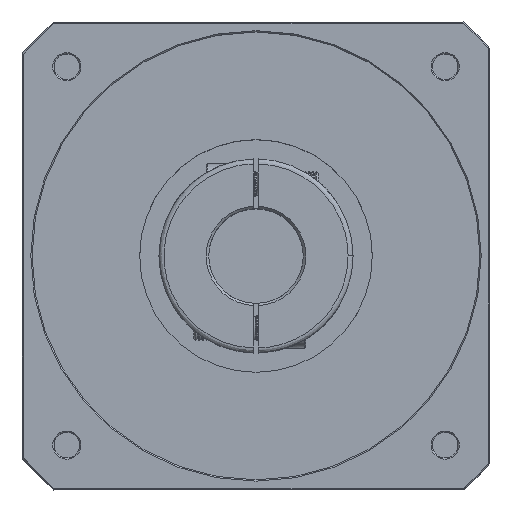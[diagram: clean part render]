
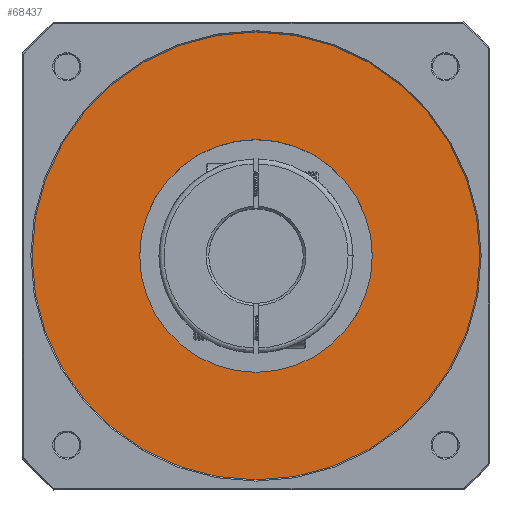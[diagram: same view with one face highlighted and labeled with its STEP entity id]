
A CAD part, top view. The second image highlights one B-rep face of the part: STEP entity #68437.
In plain terms, the highlighted planar face has unit normal (0, 0, -1).
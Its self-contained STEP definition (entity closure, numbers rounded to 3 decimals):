
#382 = EDGE_CURVE ( 'NONE', #43017, #10463, #8126, .T. ) ;
#854 = FACE_OUTER_BOUND ( 'NONE', #28990, .T. ) ;
#1432 = EDGE_CURVE ( 'NONE', #10463, #43017, #3446, .T. ) ;
#1834 = CIRCLE ( 'NONE', #54228, 46.75 ) ;
#3446 = CIRCLE ( 'NONE', #13664, 90. ) ;
#4880 = CARTESIAN_POINT ( 'NONE',  ( 90., 0., 221.5 ) ) ;
#8126 = CIRCLE ( 'NONE', #87172, 90. ) ;
#10463 = VERTEX_POINT ( 'NONE', #77179 ) ;
#13664 = AXIS2_PLACEMENT_3D ( 'NONE', #23407, #71754, #30386 ) ;
#17760 = CARTESIAN_POINT ( 'NONE',  ( -91.08, -91.08, 221.5 ) ) ;
#21414 = CARTESIAN_POINT ( 'NONE',  ( 0., 0., 221.5 ) ) ;
#21487 = DIRECTION ( 'NONE',  ( 0., 0., -1. ) ) ;
#23407 = CARTESIAN_POINT ( 'NONE',  ( 0., 0., 221.5 ) ) ;
#24143 = PLANE ( 'NONE',  #51514 ) ;
#24734 = DIRECTION ( 'NONE',  ( 1., 0., 0. ) ) ;
#28384 = DIRECTION ( 'NONE',  ( -1., 0., 0. ) ) ;
#28990 = EDGE_LOOP ( 'NONE', ( #72137, #67716 ) ) ;
#30386 = DIRECTION ( 'NONE',  ( 1., 0., 0. ) ) ;
#32167 = ORIENTED_EDGE ( 'NONE', *, *, #35422, .T. ) ;
#32797 = CARTESIAN_POINT ( 'NONE',  ( 0., 0., 221.5 ) ) ;
#35422 = EDGE_CURVE ( 'NONE', #47902, #79298, #65613, .T. ) ;
#37949 = FACE_BOUND ( 'NONE', #48656, .T. ) ;
#39784 = DIRECTION ( 'NONE',  ( -1., 0., 0. ) ) ;
#43017 = VERTEX_POINT ( 'NONE', #4880 ) ;
#47902 = VERTEX_POINT ( 'NONE', #51281 ) ;
#48656 = EDGE_LOOP ( 'NONE', ( #89575, #32167 ) ) ;
#51102 = EDGE_CURVE ( 'NONE', #79298, #47902, #1834, .T. ) ;
#51281 = CARTESIAN_POINT ( 'NONE',  ( 46.75, 0., 221.5 ) ) ;
#51514 = AXIS2_PLACEMENT_3D ( 'NONE', #17760, #66127, #24734 ) ;
#54228 = AXIS2_PLACEMENT_3D ( 'NONE', #32797, #81161, #39784 ) ;
#62913 = CARTESIAN_POINT ( 'NONE',  ( 0., 0., 221.5 ) ) ;
#65613 = CIRCLE ( 'NONE', #68867, 46.75 ) ;
#66127 = DIRECTION ( 'NONE',  ( 0., 0., 1. ) ) ;
#67716 = ORIENTED_EDGE ( 'NONE', *, *, #1432, .T. ) ;
#68437 = ADVANCED_FACE ( 'NONE', ( #37949, #854 ), #24143, .F. ) ;
#68867 = AXIS2_PLACEMENT_3D ( 'NONE', #21414, #69723, #28384 ) ;
#69723 = DIRECTION ( 'NONE',  ( 0., 0., 1. ) ) ;
#69804 = DIRECTION ( 'NONE',  ( 1., 0., 0. ) ) ;
#71754 = DIRECTION ( 'NONE',  ( 0., 0., -1. ) ) ;
#72137 = ORIENTED_EDGE ( 'NONE', *, *, #382, .T. ) ;
#77179 = CARTESIAN_POINT ( 'NONE',  ( -90., 0., 221.5 ) ) ;
#79220 = CARTESIAN_POINT ( 'NONE',  ( -46.75, 0., 221.5 ) ) ;
#79298 = VERTEX_POINT ( 'NONE', #79220 ) ;
#81161 = DIRECTION ( 'NONE',  ( 0., 0., 1. ) ) ;
#87172 = AXIS2_PLACEMENT_3D ( 'NONE', #62913, #21487, #69804 ) ;
#89575 = ORIENTED_EDGE ( 'NONE', *, *, #51102, .T. ) ;
